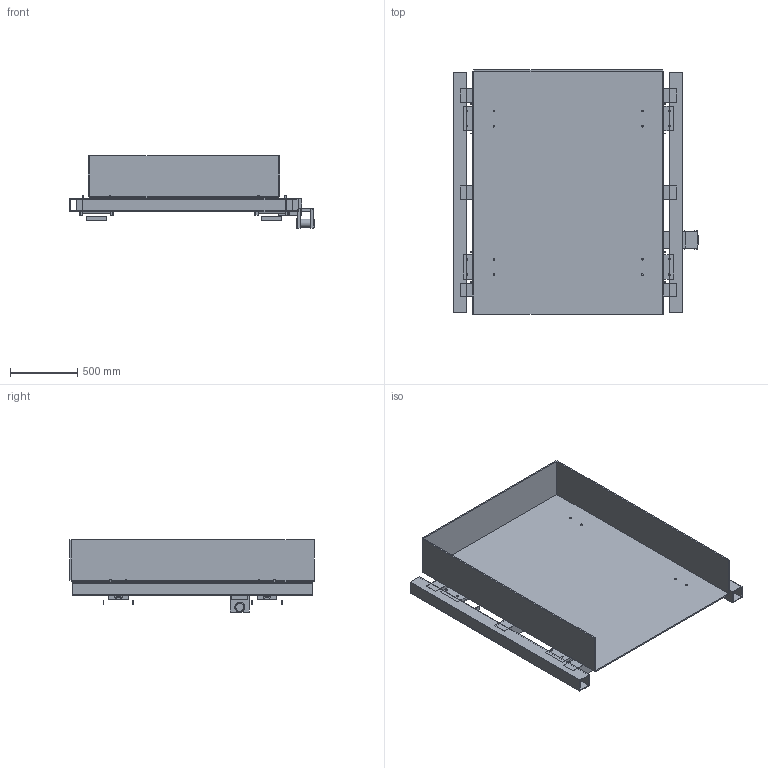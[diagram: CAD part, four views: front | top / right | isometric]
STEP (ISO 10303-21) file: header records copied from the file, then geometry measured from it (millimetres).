
FILE_DESCRIPTION(('Open CASCADE Model'),'2;1');
FILE_NAME('Open CASCADE Shape Model','2026-09-19T12:55:10',('Author'),( 'Open CASCADE'),'Open CASCADE STEP processor 7.9','Open CASCADE 7.9' ,'Unknown');
FILE_SCHEMA(('AUTOMOTIVE_DESIGN { 1 0 10303 214 1 1 1 1 }'));
Length unit declared in the file: millimetre
Products named in the file (65): Open CASCADE STEP translator 7.9 4; Open CASCADE STEP translator 7.9 4.1; Open CASCADE STEP translator 7.9 4.2; Open CASCADE STEP translator 7.9 4.3; Open CASCADE STEP translator 7.9 4.4; Open CASCADE STEP translator 7.9 4.5; Open CASCADE STEP translator 7.9 4.6; Open CASCADE STEP translator 7.9 4.7; Open CASCADE STEP translator 7.9 4.8; Open CASCADE STEP translator 7.9 4.9; Open CASCADE STEP translator 7.9 4.10; Open CASCADE STEP translator 7.9 4.11; Open CASCADE STEP translator 7.9 4.12; Open CASCADE STEP translator 7.9 4.13; Open CASCADE STEP translator 7.9 4.14; Open CASCADE STEP translator 7.9 4.15; Open CASCADE STEP translator 7.9 4.16; Open CASCADE STEP translator 7.9 4.17; Open CASCADE STEP translator 7.9 4.18; Open CASCADE STEP translator 7.9 4.19; Open CASCADE STEP translator 7.9 4.20; Open CASCADE STEP translator 7.9 4.21; Open CASCADE STEP translator 7.9 4.22; Open CASCADE STEP translator 7.9 4.23; Open CASCADE STEP translator 7.9 4.24; Open CASCADE STEP translator 7.9 4.25; Open CASCADE STEP translator 7.9 4.26; Open CASCADE STEP translator 7.9 4.27; Open CASCADE STEP translator 7.9 4.28; Open CASCADE STEP translator 7.9 4.29; Open CASCADE STEP translator 7.9 4.30; Open CASCADE STEP translator 7.9 4.31; Open CASCADE STEP translator 7.9 4.32; Open CASCADE STEP translator 7.9 4.33; Open CASCADE STEP translator 7.9 4.34; Open CASCADE STEP translator 7.9 4.35; Open CASCADE STEP translator 7.9 4.36; Open CASCADE STEP translator 7.9 4.37; Open CASCADE STEP translator 7.9 4.38; Open CASCADE STEP translator 7.9 4.39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
Assembly tree (64 placements, depth 2):
  Open CASCADE STEP translator 7.9 4
    Open CASCADE STEP translator 7.9 4.1
    Open CASCADE STEP translator 7.9 4.2
    Open CASCADE STEP translator 7.9 4.3
    Open CASCADE STEP translator 7.9 4.4
    Open CASCADE STEP translator 7.9 4.5
    Open CASCADE STEP translator 7.9 4.6
    Open CASCADE STEP translator 7.9 4.7
    Open CASCADE STEP translator 7.9 4.8
    Open CASCADE STEP translator 7.9 4.9
    Open CASCADE STEP translator 7.9 4.10
    Open CASCADE STEP translator 7.9 4.11
    Open CASCADE STEP translator 7.9 4.12
    Open CASCADE STEP translator 7.9 4.13
    Open CASCADE STEP translator 7.9 4.14
    Open CASCADE STEP translator 7.9 4.15
    Open CASCADE STEP translator 7.9 4.16
    Open CASCADE STEP translator 7.9 4.17
    Open CASCADE STEP translator 7.9 4.18
    Open CASCADE STEP translator 7.9 4.19
    Open CASCADE STEP translator 7.9 4.20
    Open CASCADE STEP translator 7.9 4.21
    Open CASCADE STEP translator 7.9 4.22
    Open CASCADE STEP translator 7.9 4.23
    Open CASCADE STEP translator 7.9 4.24
    Open CASCADE STEP translator 7.9 4.25
    Open CASCADE STEP translator 7.9 4.26
    Open CASCADE STEP translator 7.9 4.27
    Open CASCADE STEP translator 7.9 4.28
    Open CASCADE STEP translator 7.9 4.29
    Open CASCADE STEP translator 7.9 4.30
    Open CASCADE STEP translator 7.9 4.31
    Open CASCADE STEP translator 7.9 4.32
    Open CASCADE STEP translator 7.9 4.33
    Open CASCADE STEP translator 7.9 4.34
    Open CASCADE STEP translator 7.9 4.35
    Open CASCADE STEP translator 7.9 4.36
    Open CASCADE STEP translator 7.9 4.37
    Open CASCADE STEP translator 7.9 4.38
    Open CASCADE STEP translator 7.9 4.39
    Open CASCADE STEP translator 7.9 4.40
    Open CASCADE STEP translator 7.9 4.41
    Open CASCADE STEP translator 7.9 4.42
    Open CASCADE STEP translator 7.9 4.43
    Open CASCADE STEP translator 7.9 4.44
    Open CASCADE STEP translator 7.9 4.45
    Open CASCADE STEP translator 7.9 4.46
    Open CASCADE STEP translator 7.9 4.47
    Open CASCADE STEP translator 7.9 4.48
    Open CASCADE STEP translator 7.9 4.49
    Open CASCADE STEP translator 7.9 4.50
    Open CASCADE STEP translator 7.9 4.51
    Open CASCADE STEP translator 7.9 4.52
    Open CASCADE STEP translator 7.9 4.53
    Open CASCADE STEP translator 7.9 4.54
    Open CASCADE STEP translator 7.9 4.55
    Open CASCADE STEP translator 7.9 4.56
    Open CASCADE STEP translator 7.9 4.57
    Open CASCADE STEP translator 7.9 4.58
    Open CASCADE STEP translator 7.9 4.59
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Bounding box: 1816 x 1810 x 537 mm (x, y, z)
Volume: 69483063.6 mm3; surface area: 15834018.5 mm2
Topology: 64 solids, 64 shells, 347 faces, 633 edges, 422 vertices
Faces by surface type: plane 288, cylinder 59
Full cylindrical faces by diameter (mm): 10.2 x8, 12 x16, 13 x8, 32 x4, 32.5 x8, 56 x8, 60 x1, 60.5 x2, 60.6 x2, 74 x2
Entity records: 17822 total; most frequent: DIRECTION 2837, CARTESIAN_POINT 2757, LINE 1663, VECTOR 1663, ORIENTED_EDGE 1266, PCURVE 1266, DEFINITIONAL_REPRESENTATION 1266, EDGE_CURVE 633
